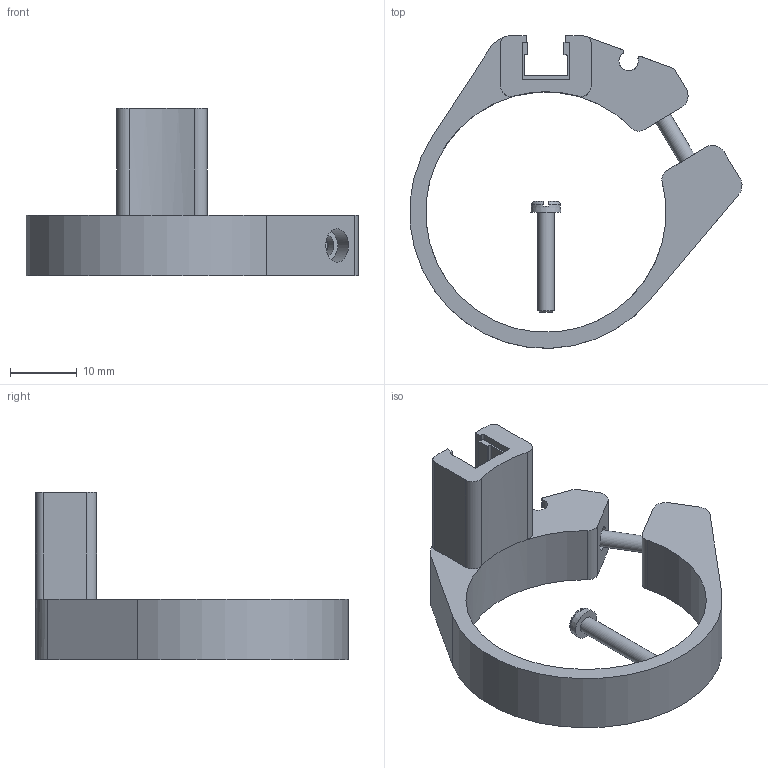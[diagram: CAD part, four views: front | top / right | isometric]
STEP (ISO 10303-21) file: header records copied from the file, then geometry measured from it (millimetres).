
FILE_DESCRIPTION( ( 'STEP AP204' ), '1' );
FILE_NAME( '//expscmdclustefs.cadenas.external/client_exchange/iodir/jobs/output/wkb54991554_no0/STEP/E12017_204.stp', ' ', ( ' ' ), ( ' ' ), 'PSStep 15.0.47', 'PARTsolutions', ' ' );
FILE_SCHEMA( ( 'CONFIG_CONTROL_DESIGN' ) );
Length unit declared in the file: millimetre
Products named in the file (5): E12017_part1; E12015_part2; E12017
Bounding box: 49.7 x 46.79 x 25 mm (x, y, z)
Volume: 17653.1 mm3; surface area: 14991.3 mm2
Topology: 4 solids, 4 shells, 170 faces, 464 edges, 306 vertices
Faces by surface type: plane 96, cylinder 64, torus 6, cone 4
Full cylindrical faces by diameter (mm): 2.5 x2, 3.6 x4, 5 x2, 6.7 x2
Entity records: 2860 total; most frequent: CARTESIAN_POINT 579, DIRECTION 454, ORIENTED_EDGE 440, EDGE_CURVE 220, AXIS2_PLACEMENT_3D 160, VERTEX_POINT 149, LINE 134, VECTOR 134
